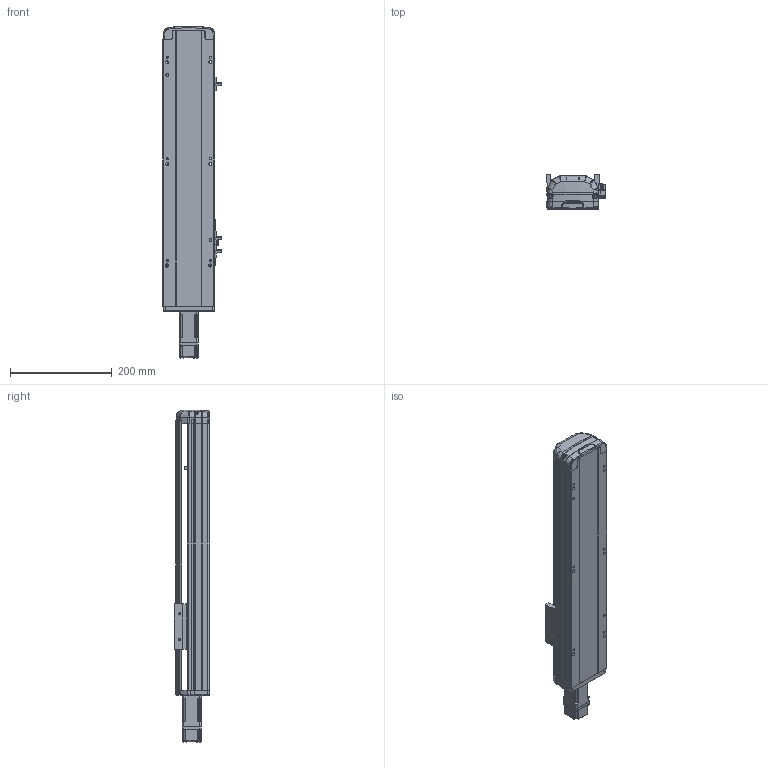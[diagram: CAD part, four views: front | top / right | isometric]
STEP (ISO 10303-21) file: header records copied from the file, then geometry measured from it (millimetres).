
FILE_DESCRIPTION (( 'STEP AP214' ), '1' );
FILE_NAME ('RTH10-XX-300-E-M10-C4.STEP', '2025-10-25T05:22:12', ( 'Microsoft' ), ( 'Microsoft' ), 'SwSTEP 2.0', 'SolidWorks 2018', '' );
FILE_SCHEMA (( 'AUTOMOTIVE_DESIGN' ));
Length unit declared in the file: millimetre
Products named in the file (9): N_RTH12-GY-004-賑釱^RTH10-XX-XX-E-M10-C4; RTH10-XX-300-E-M10-C4; N_RTH13-L-012覜茼え俋离^RTH10-XX-XX-E-M10-C4; N_RTH12-GY-001P^RTH10-XX-XX-E-M10-C4; N_P10^RTH10-XX-XX-E-M10-C4; N_RTH12-E-011P-臏倰第菁釱^RTH10-XX-XX-E-M10-C4; N_RTH12-E-008-M10萇儂啣^RTH10-XX-XX-E-M10-C4; N_RTH12-E-007P-奻裔^RTH10-XX-XX-E-M10-C4; N_OMRON EE-SX672 传感器^RTH10-XX-XX-E-M10-C4
Assembly tree (10 placements, depth 2):
  RTH10-XX-300-E-M10-C4
    N_RTH12-E-011P-臏倰第菁釱^RTH10-XX-XX-E-M10-C4
    N_RTH13-L-012覜茼え俋离^RTH10-XX-XX-E-M10-C4
    N_OMRON EE-SX672 传感器^RTH10-XX-XX-E-M10-C4  x3
    N_P10^RTH10-XX-XX-E-M10-C4
    N_RTH12-E-007P-奻裔^RTH10-XX-XX-E-M10-C4
    N_RTH12-E-008-M10萇儂啣^RTH10-XX-XX-E-M10-C4
    N_RTH12-GY-001P^RTH10-XX-XX-E-M10-C4
    N_RTH12-GY-004-賑釱^RTH10-XX-XX-E-M10-C4
Bounding box: 116.5 x 70 x 653.34 mm (x, y, z)
Volume: 2358289.9 mm3; surface area: 395155.2 mm2
Topology: 9 solids, 11 shells, 1912 faces, 5299 edges, 3474 vertices
Faces by surface type: plane 964, bspline 472, cylinder 441, cone 33, torus 2
Entity records: 56995 total; most frequent: CARTESIAN_POINT 22814, ORIENTED_EDGE 7678, DIRECTION 5863, EDGE_CURVE 3845, VERTEX_POINT 2518, LINE 2049, VECTOR 2049, AXIS2_PLACEMENT_3D 1907
